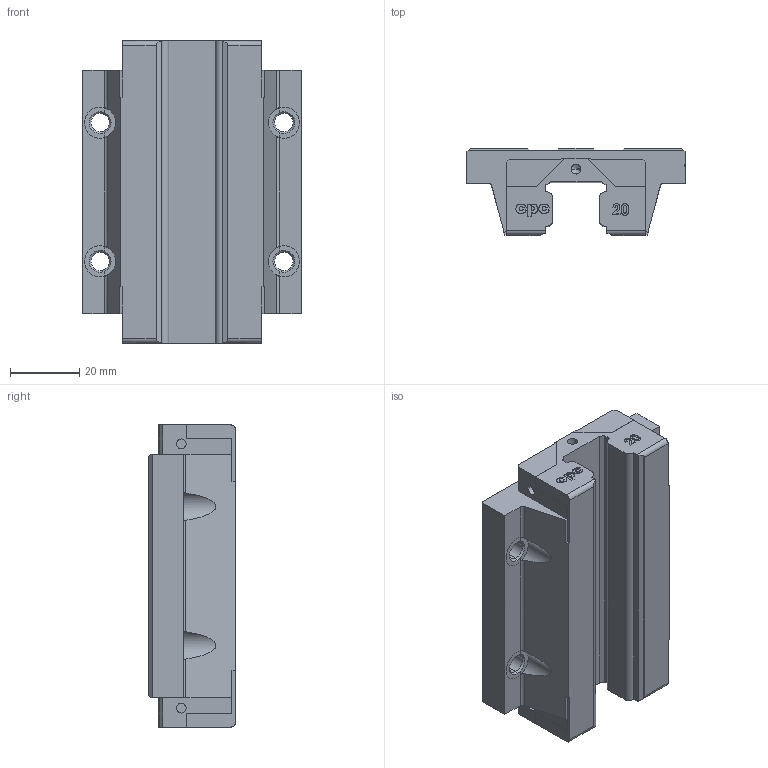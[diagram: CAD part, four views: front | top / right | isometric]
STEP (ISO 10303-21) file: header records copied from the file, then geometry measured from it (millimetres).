
FILE_DESCRIPTION (( 'STEP AP214' ), '1' );
FILE_NAME ('HRC20FL-block-X2.STEP', '2018-02-06T02:59:08', ( '' ), ( '' ), 'SwSTEP 2.0', 'SolidWorks 2010', '' );
FILE_SCHEMA (( 'AUTOMOTIVE_DESIGN' ));
Length unit declared in the file: millimetre
Products named in the file (1): HRC20FL-block-X2
Bounding box: 63 x 25 x 87.2 mm (x, y, z)
Volume: 84501.9 mm3; surface area: 19753.2 mm2
Topology: 1 solids, 1 shells, 312 faces, 832 edges, 538 vertices
Faces by surface type: plane 147, bspline 90, cylinder 47, cone 28
Entity records: 17616 total; most frequent: CARTESIAN_POINT 10113, ORIENTED_EDGE 1656, DIRECTION 1200, EDGE_CURVE 828, VERTEX_POINT 538, LINE 510, VECTOR 510, AXIS2_PLACEMENT_3D 345
